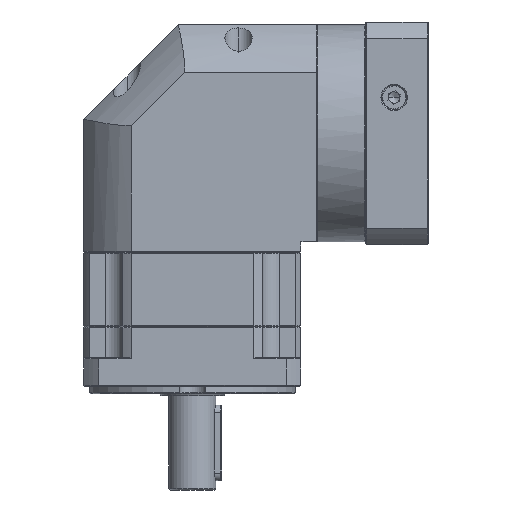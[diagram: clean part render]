
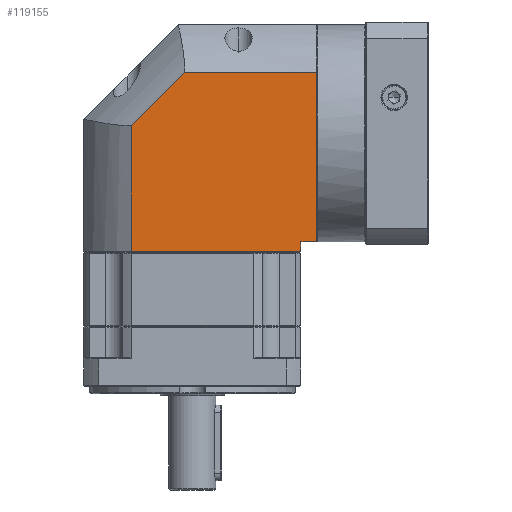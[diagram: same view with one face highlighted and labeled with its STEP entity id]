
A CAD part, front view. The second image highlights one B-rep face of the part: STEP entity #119155.
In plain terms, the highlighted planar face has unit normal (0, -1, 0).
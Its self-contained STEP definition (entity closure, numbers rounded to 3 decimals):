
#1588 = VERTEX_POINT ( 'NONE', #53677 ) ;
#3249 = VECTOR ( 'NONE', #83171, 1000. ) ;
#9967 = LINE ( 'NONE', #127228, #21577 ) ;
#14084 = CARTESIAN_POINT ( 'NONE',  ( -168.297, -96.78, 284.402 ) ) ;
#15471 = CARTESIAN_POINT ( 'NONE',  ( -196.635, -96.78, 256.064 ) ) ;
#17760 = FACE_OUTER_BOUND ( 'NONE', #123422, .T. ) ;
#18724 = ORIENTED_EDGE ( 'NONE', *, *, #25973, .F. ) ;
#19318 = LINE ( 'NONE', #94185, #34303 ) ;
#21577 = VECTOR ( 'NONE', #73590, 1000. ) ;
#22206 = ORIENTED_EDGE ( 'NONE', *, *, #129724, .F. ) ;
#22874 = PLANE ( 'NONE',  #39768 ) ;
#23294 = VERTEX_POINT ( 'NONE', #49122 ) ;
#25973 = EDGE_CURVE ( 'NONE', #30966, #23294, #19318, .T. ) ;
#28242 = LINE ( 'NONE', #93900, #3249 ) ;
#30966 = VERTEX_POINT ( 'NONE', #55761 ) ;
#33598 = DIRECTION ( 'NONE',  ( 1., 0., 0. ) ) ;
#34303 = VECTOR ( 'NONE', #135628, 1000. ) ;
#34641 = VECTOR ( 'NONE', #70899, 1000. ) ;
#39768 = AXIS2_PLACEMENT_3D ( 'NONE', #64783, #43858, #33598 ) ;
#41296 = ORIENTED_EDGE ( 'NONE', *, *, #99412, .F. ) ;
#43858 = DIRECTION ( 'NONE',  ( 0., 1., 0. ) ) ;
#45262 = CARTESIAN_POINT ( 'NONE',  ( -98.335, -96.78, 183.002 ) ) ;
#49122 = CARTESIAN_POINT ( 'NONE',  ( -106.735, -96.78, 189.502 ) ) ;
#49200 = ORIENTED_EDGE ( 'NONE', *, *, #61672, .F. ) ;
#53677 = CARTESIAN_POINT ( 'NONE',  ( -98.335, -96.78, 194.502 ) ) ;
#55761 = CARTESIAN_POINT ( 'NONE',  ( -106.735, -96.78, 194.502 ) ) ;
#57139 = CARTESIAN_POINT ( 'NONE',  ( -196.635, -96.78, 256.064 ) ) ;
#58448 = LINE ( 'NONE', #57139, #101805 ) ;
#58482 = EDGE_CURVE ( 'NONE', #23294, #79423, #28242, .T. ) ;
#61672 = EDGE_CURVE ( 'NONE', #84880, #1588, #61975, .T. ) ;
#61975 = LINE ( 'NONE', #45262, #68606 ) ;
#64783 = CARTESIAN_POINT ( 'NONE',  ( -221.735, -96.78, 183.002 ) ) ;
#65688 = CARTESIAN_POINT ( 'NONE',  ( -98.335, -96.78, 284.402 ) ) ;
#65958 = ORIENTED_EDGE ( 'NONE', *, *, #97238, .F. ) ;
#68606 = VECTOR ( 'NONE', #78258, 1000. ) ;
#70899 = DIRECTION ( 'NONE',  ( 1., 0., 0. ) ) ;
#73590 = DIRECTION ( 'NONE',  ( 0., 0., 1. ) ) ;
#73664 = CARTESIAN_POINT ( 'NONE',  ( -196.635, -96.78, 189.502 ) ) ;
#78258 = DIRECTION ( 'NONE',  ( 0., 0., -1. ) ) ;
#79423 = VERTEX_POINT ( 'NONE', #73664 ) ;
#83171 = DIRECTION ( 'NONE',  ( -1., 0., 0. ) ) ;
#84880 = VERTEX_POINT ( 'NONE', #65688 ) ;
#93900 = CARTESIAN_POINT ( 'NONE',  ( -221.735, -96.78, 189.502 ) ) ;
#94185 = CARTESIAN_POINT ( 'NONE',  ( -106.735, -96.78, 183.002 ) ) ;
#94607 = LINE ( 'NONE', #125896, #34641 ) ;
#94701 = VERTEX_POINT ( 'NONE', #15471 ) ;
#95425 = VERTEX_POINT ( 'NONE', #14084 ) ;
#97238 = EDGE_CURVE ( 'NONE', #79423, #94701, #9967, .T. ) ;
#99412 = EDGE_CURVE ( 'NONE', #94701, #95425, #58448, .T. ) ;
#99539 = DIRECTION ( 'NONE',  ( 0.707, 0., 0.707 ) ) ;
#99592 = CARTESIAN_POINT ( 'NONE',  ( -221.735, -96.78, 194.502 ) ) ;
#101760 = ORIENTED_EDGE ( 'NONE', *, *, #121341, .F. ) ;
#101805 = VECTOR ( 'NONE', #99539, 1000. ) ;
#117438 = VECTOR ( 'NONE', #133055, 1000. ) ;
#119155 = ADVANCED_FACE ( 'NONE', ( #17760 ), #22874, .F. ) ;
#119202 = LINE ( 'NONE', #99592, #117438 ) ;
#121341 = EDGE_CURVE ( 'NONE', #1588, #30966, #119202, .T. ) ;
#123295 = ORIENTED_EDGE ( 'NONE', *, *, #58482, .F. ) ;
#123422 = EDGE_LOOP ( 'NONE', ( #18724, #101760, #49200, #22206, #41296, #65958, #123295 ) ) ;
#125896 = CARTESIAN_POINT ( 'NONE',  ( -221.735, -96.78, 284.402 ) ) ;
#127228 = CARTESIAN_POINT ( 'NONE',  ( -196.635, -96.78, 183.002 ) ) ;
#129724 = EDGE_CURVE ( 'NONE', #95425, #84880, #94607, .T. ) ;
#133055 = DIRECTION ( 'NONE',  ( -1., 0., 0. ) ) ;
#135628 = DIRECTION ( 'NONE',  ( 0., 0., -1. ) ) ;
